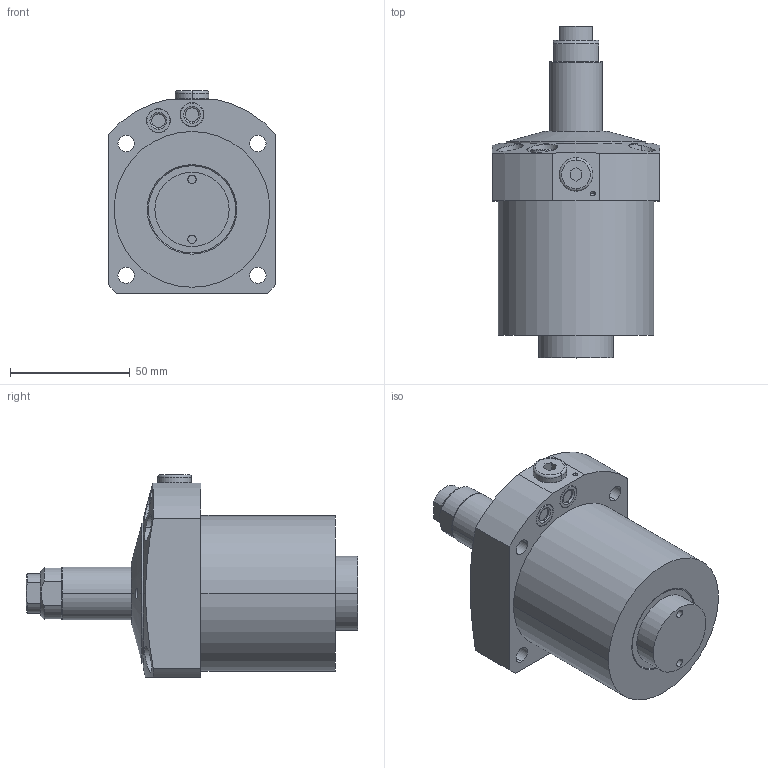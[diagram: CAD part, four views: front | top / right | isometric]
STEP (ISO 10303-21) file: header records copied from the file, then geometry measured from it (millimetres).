
FILE_DESCRIPTION(/* description */ (''),/* implementation_level */ '2;1');
FILE_NAME(/* name */ 'KFSS65-Q.stp',/* time_stamp */ '2023-01-10T13:24:50+08:00',/* author */ (''),/* organization */ (''),/* preprocessor_version */ 'ST-DEVELOPER v16.7',/* originating_system */ 'SIEMENS PLM Software NX 12.0',/* authorisation */ '');
FILE_SCHEMA (('AP203_CONFIGURATION_CONTROLLED_3D_DESIGN_OF_MECHANICAL_PARTS_AND_ASSEMBLIES_MIM_LF { 1 0 10303 403 2 1 2}'));
Length unit declared in the file: millimetre
Products named in the file (8): KFSS65-Q-7; KFSS65-Q-3; KFSS65-Q-1; KFSS65-Q-4; KFSS65-Q-2; KFSS65-Q-5; KFSS65-Q-6; LC0652-C-EQ_step
Assembly tree (8 placements, depth 2):
  LC0652-C-EQ_step
    KFSS65-Q-6  x2
    KFSS65-Q-5
    KFSS65-Q-2
    KFSS65-Q-4
    KFSS65-Q-1
    KFSS65-Q-3
    KFSS65-Q-7
Bounding box: 70 x 138.5 x 84.5 mm (x, y, z)
Volume: 323693 mm3; surface area: 41682.1 mm2
Topology: 8 solids, 8 shells, 217 faces, 472 edges, 292 vertices
Faces by surface type: cylinder 86, plane 63, cone 38, torus 28, sphere 2
Entity records: 6776 total; most frequent: CARTESIAN_POINT 1188, DIRECTION 1072, ORIENTED_EDGE 884, AXIS2_PLACEMENT_3D 448, EDGE_CURVE 442, VERTEX_POINT 278, EDGE_LOOP 244, CIRCLE 234
